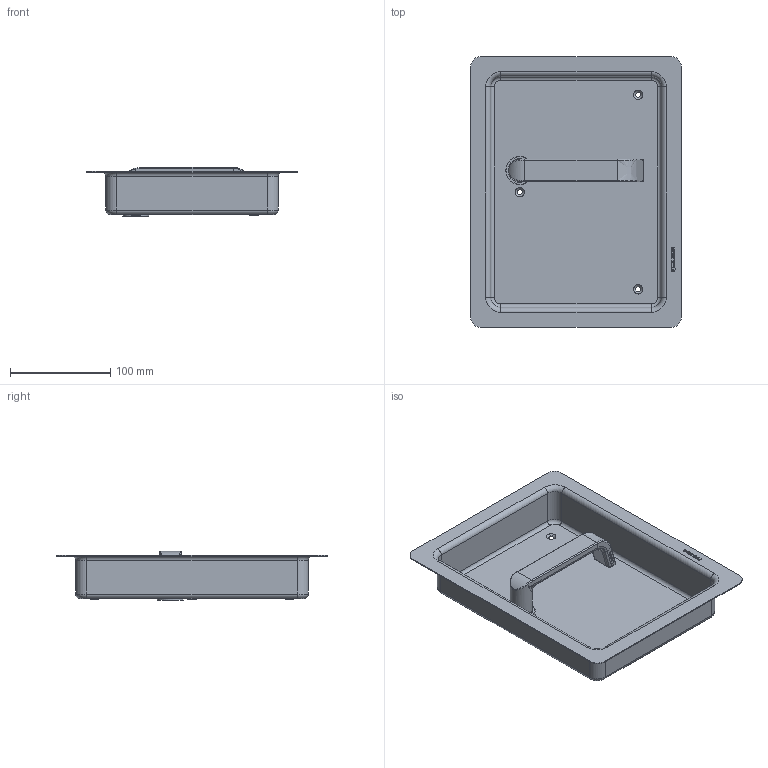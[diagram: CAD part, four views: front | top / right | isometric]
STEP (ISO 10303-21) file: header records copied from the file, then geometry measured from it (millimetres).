
FILE_DESCRIPTION(/* description */ (''),/* implementation_level */ '2;1');
FILE_NAME(/* name */ 'C:\ADSK_DMS_WS\Designs\Vorschläge\Loc Schalen\Muschel Serie 6\S6.42.D2\Heusser-Muschel S6.42.D2.0R.stp',/* time_stamp */ '2020-10-14T09:19:33+02:00',/* author */ ('gm'),/* organization */ (''),/* preprocessor_version */ 'ST-DEVELOPER v16.5',/* originating_system */ 'Autodesk Inventor 2017',/* authorisation */ '');
FILE_SCHEMA (('AUTOMOTIVE_DESIGN { 1 0 10303 214 3 1 1 }'));
Length unit declared in the file: millimetre
Products named in the file (1): S6.42.D2
Bounding box: 210 x 270 x 49 mm (x, y, z)
Volume: 130557.8 mm3; surface area: 188827.8 mm2
Topology: 1 solids, 2 shells, 607 faces, 1594 edges, 1032 vertices
Faces by surface type: plane 294, bspline 208, cylinder 68, torus 21, cone 16
Full cylindrical faces by diameter (mm): 1.7 x2, 6 x1, 14.2 x1, 16 x3, 18 x1, 19 x1, 19.1 x1, 22 x1, 23 x1, 23.2 x1, 24 x1, 25 x1, 26 x1, 28 x1
Entity records: 20767 total; most frequent: CARTESIAN_POINT 6353, ORIENTED_EDGE 3098, DIRECTION 2309, EDGE_CURVE 1549, VERTEX_POINT 1024, LINE 953, VECTOR 953, EDGE_LOOP 703
